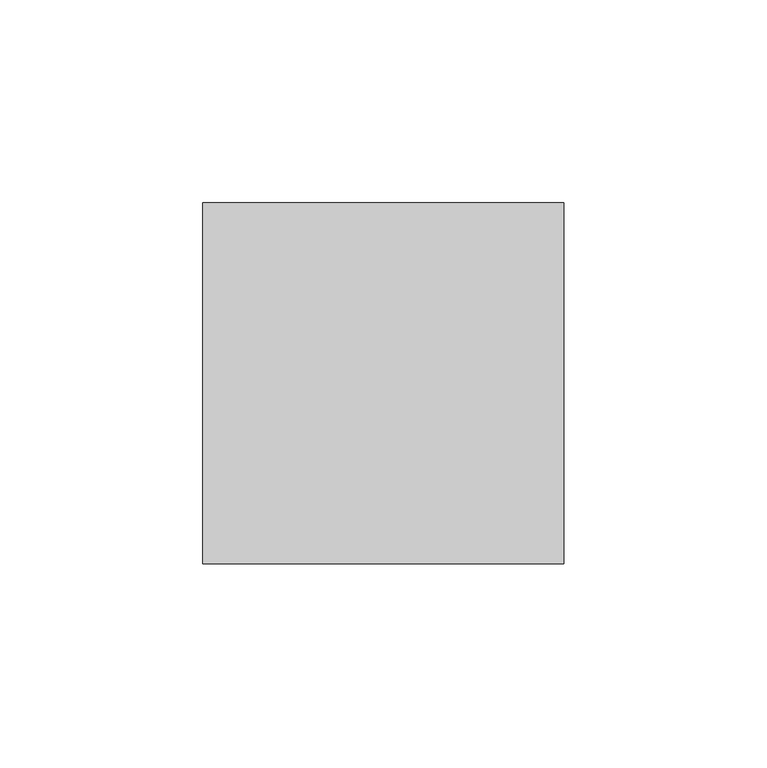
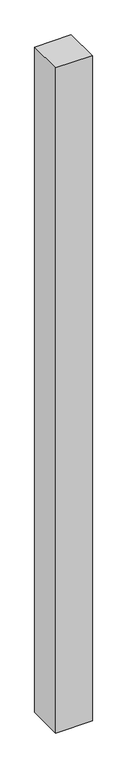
"""IFC4 building model written with IfcOpenShell, lengths in millimetres: column geometry, Trus Joist - TimberStrand LSL - Post Column : TimberStrand® 1.3E – 3 1/2 x 3 1/2”."""

from ifc_helpers import new_model, si_unit, frame, origin, place, context, project, spatial, polyline, outline, extrude, source, transform, mapped, element, save


def column_724eec8a(model_context):
    return source(origin(), model_context, "Body", "SweptSolid", [
        extrude(outline(polyline([(44.45, 44.45), (44.45, -44.45), (-44.45, -44.45), (-44.45, 44.45), (44.45, 44.45)])), frame((0.0, 0.0, 2743.2), z_axis=(0.0, 0.0, 1.0), x_axis=(1.0, 0.0, 0.0)), (0.0, 0.0, 1.0), 1711.325),
    ])


if __name__ == "__main__":
    model = new_model("IFC4")
    model_context = context("Model", 3, world=origin())
    ifc_project = project(units=[si_unit("LENGTHUNIT", "METRE", prefix="MILLI")], contexts=[model_context])
    site = spatial("IfcSite", under=ifc_project)
    building = spatial("IfcBuilding", under=site)
    placement = place(None, origin())
    column_shape = column_724eec8a(model_context)
    element("IfcColumn", 1, ObjectType="Trus Joist - TimberStrand LSL - Post Column : TimberStrand® 1.3E – 3 1/2 x 3 1/2”", at=placement, inside=building, context=model_context, shape_type="MappedRepresentation", body=[
        mapped(column_shape, transform((0.0, 0.0, 0.0), x_axis=(1.0, 0.0, 0.0), y_axis=(0.0, 1.0, 0.0), z_axis=(0.0, 0.0, 1.0))),
    ])
    save(model, "model.ifc")
